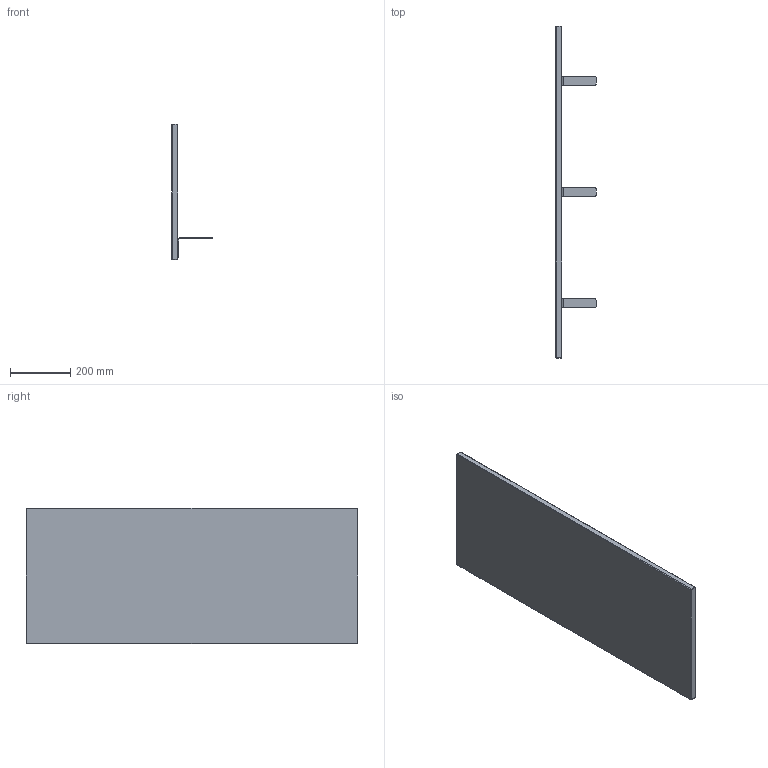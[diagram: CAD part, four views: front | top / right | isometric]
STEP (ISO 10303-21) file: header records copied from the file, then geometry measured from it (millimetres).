
FILE_DESCRIPTION ((), '1');
FILE_NAME ('C:\D\DESING\TABLE DESK PROJECT\MODESK WEB\3D MODELY KE STAZENI\PRISLUSENSTVI\PARAVAN.stp', '2019-08-02T13:47:17', ('Unknown'), ('Unknown'), 'HarmonyWare STEP v1.4.3', 'HarmonyWare Translators', '');
FILE_SCHEMA (('CONFIG_CONTROL_DESIGN'));
Length unit declared in the file: millimetre
Products named in the file (4): MODESK_EXECUTIVE_1800 + KONTEJNER L
Bounding box: 133.11 x 1100 x 450 mm (x, y, z)
Volume: 9956888 mm3; surface area: 1082538.5 mm2
Topology: 4 solids, 4 shells, 68 faces, 164 edges, 96 vertices
Faces by surface type: bspline 68
Entity records: 2084 total; most frequent: CARTESIAN_POINT 852, ORIENTED_EDGE 312, EDGE_CURVE 156, VERTEX_POINT 96, EDGE_LOOP 68, FACE_OUTER_BOUND 68, ADVANCED_FACE 68, PERSON 32
